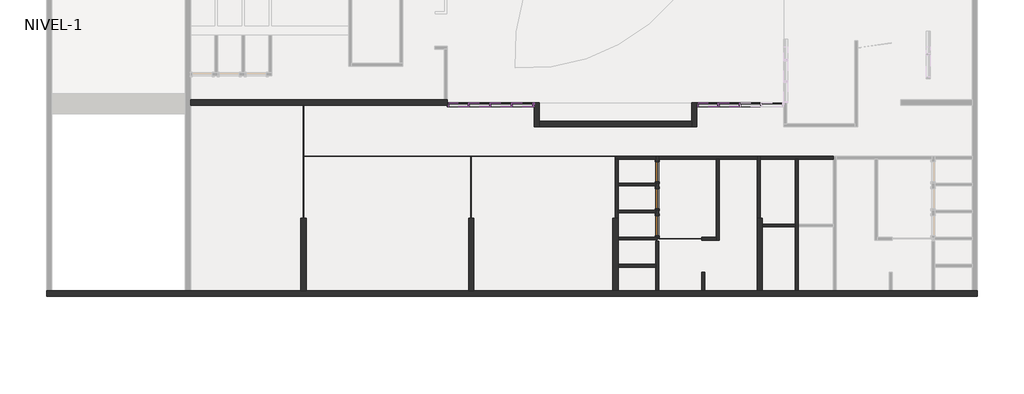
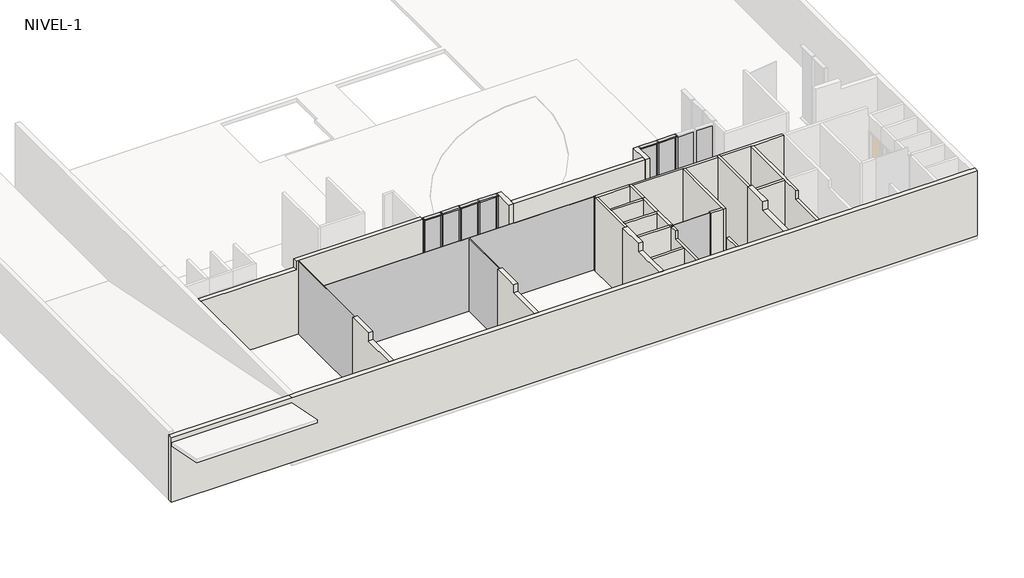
# One storey, part 1 of 4: 27 walls, 23 members, 13 plates, 3 doors.
"""IFC4 building model written with IfcOpenShell, lengths in millimetres."""

from ifc_helpers import new_model, si_unit, frame, origin, place, context, project, spatial, polyline, outline, extrude, faceted_brep, transform, mapped, element, save
from components import m_single_flush_750x_225_070f6889, rectangular_mullion_50_x_150mm_86a57cfb, rectangular_mullion_50_x_150mm_24ac0887, rectangular_mullion_50_x_150mm_ddcdbc05, rectangular_mullion_50_x_150mm_77bbb7d4, rectangular_mullion_50_x_150mm_d1ed8723, system_panel_cr_shower_ecd2c0de, system_panel_cr_shower_94f7a9c8, system_panel_cr_shower_a24a3b2b, system_panel_cr_shower_a34dfe18, system_panel_glazed_06997634, system_panel_glazed_e1af93cb, system_panel_glazed_255c200d

model = new_model("IFC4")

# Units and contexts
model_context = context("Model", 3, world=origin())
ifc_project = project(units=[si_unit("LENGTHUNIT", "METRE", prefix="MILLI")], contexts=[model_context])

# Site, building, storey
site = spatial("IfcSite", under=ifc_project)
building = spatial("IfcBuilding", under=site)
storey = spatial("IfcBuildingStorey", under=building, Name="NIVEL-1", Elevation=-4500.0)

# Doors
placement = place(None, origin())
m_single_flush_750x_225_shape = m_single_flush_750x_225_070f6889(model_context)
element("IfcDoor", 1, ObjectType="M_Single-Flush : 750x 225", at=placement, inside=storey, context=model_context, shape_type="MappedRepresentation", body=[
    mapped(m_single_flush_750x_225_shape, transform((-5623.5934748, -4871.0860759, -4500.0), x_axis=(0.0, -1.0, 0.0), y_axis=(1.0, 0.0, 0.0), z_axis=(0.0, 0.0, 1.0))),
])
element("IfcDoor", 2, ObjectType="M_Single-Flush : 750x 225", at=placement, inside=storey, context=model_context, shape_type="MappedRepresentation", body=[
    mapped(m_single_flush_750x_225_shape, transform((-5623.5934748, -3861.0860759, -4500.0), x_axis=(0.0, -1.0, 0.0), y_axis=(1.0, 0.0, 0.0), z_axis=(0.0, 0.0, 1.0))),
])
element("IfcDoor", 3, ObjectType="M_Single-Flush : 750x 225", at=placement, inside=storey, context=model_context, shape_type="MappedRepresentation", body=[
    mapped(m_single_flush_750x_225_shape, transform((-5623.5934748, -2851.0860759, -4500.0), x_axis=(0.0, -1.0, 0.0), y_axis=(1.0, 0.0, 0.0), z_axis=(0.0, 0.0, 1.0))),
])

# Members
rectangular_mullion_50_x_150mm_shape = rectangular_mullion_50_x_150mm_86a57cfb(model_context)
element("IfcMember", 4, ObjectType="Rectangular Mullion : 50 x 150mm", at=placement, inside=storey, context=model_context, shape_type="MappedRepresentation", body=[
    mapped(rectangular_mullion_50_x_150mm_shape, transform((-3328.5934745, -341.0860759, -4520.0), x_axis=(1.0, 0.0, 0.0), y_axis=(0.0, -1.0, 0.0), z_axis=(0.0, 0.0, -1.0))),
])
element("IfcMember", 5, ObjectType="Rectangular Mullion : 50 x 150mm", at=placement, inside=storey, context=model_context, shape_type="MappedRepresentation", body=[
    mapped(rectangular_mullion_50_x_150mm_shape, transform((-2523.5934745, -341.0860759, -4520.0), x_axis=(1.0, 0.0, 0.0), y_axis=(0.0, -1.0, 0.0), z_axis=(0.0, 0.0, -1.0))),
])
element("IfcMember", 6, ObjectType="Rectangular Mullion : 50 x 150mm", at=placement, inside=storey, context=model_context, shape_type="MappedRepresentation", body=[
    mapped(rectangular_mullion_50_x_150mm_shape, transform((-12678.5934745, -341.0860759, -4520.0), x_axis=(1.0, 0.0, 0.0), y_axis=(0.0, -1.0, 0.0), z_axis=(0.0, 0.0, -1.0))),
])
element("IfcMember", 7, ObjectType="Rectangular Mullion : 50 x 150mm", at=placement, inside=storey, context=model_context, shape_type="MappedRepresentation", body=[
    mapped(rectangular_mullion_50_x_150mm_shape, transform((-11873.5934745, -341.0860759, -4520.0), x_axis=(1.0, 0.0, 0.0), y_axis=(0.0, -1.0, 0.0), z_axis=(0.0, 0.0, -1.0))),
])
element("IfcMember", 8, ObjectType="Rectangular Mullion : 50 x 150mm", at=placement, inside=storey, context=model_context, shape_type="MappedRepresentation", body=[
    mapped(rectangular_mullion_50_x_150mm_shape, transform((-11068.5934745, -341.0860759, -4520.0), x_axis=(1.0, 0.0, 0.0), y_axis=(0.0, -1.0, 0.0), z_axis=(0.0, 0.0, -1.0))),
])
element("IfcMember", 9, ObjectType="Rectangular Mullion : 50 x 150mm", at=placement, inside=storey, context=model_context, shape_type="MappedRepresentation", body=[
    mapped(rectangular_mullion_50_x_150mm_shape, transform((-10263.5934745, -341.0860759, -4520.0), x_axis=(1.0, 0.0, 0.0), y_axis=(0.0, -1.0, 0.0), z_axis=(0.0, 0.0, -1.0))),
])
rectangular_mullion_50_x_150mm_2_shape = rectangular_mullion_50_x_150mm_24ac0887(model_context)
element("IfcMember", 10, ObjectType="Rectangular Mullion : 50 x 150mm", at=placement, inside=storey, context=model_context, shape_type="MappedRepresentation", body=[
    mapped(rectangular_mullion_50_x_150mm_2_shape, transform((-4133.5934748, -341.0860759, -1170.0), x_axis=(-1.0, 0.0, 0.0), y_axis=(0.0, -1.0, 0.0), z_axis=(0.0, 0.0, 1.0))),
])
element("IfcMember", 11, ObjectType="Rectangular Mullion : 50 x 150mm", at=placement, inside=storey, context=model_context, shape_type="MappedRepresentation", body=[
    mapped(rectangular_mullion_50_x_150mm_2_shape, transform((-13483.5934748, -341.0860759, -1170.0), x_axis=(-1.0, 0.0, 0.0), y_axis=(0.0, -1.0, 0.0), z_axis=(0.0, 0.0, 1.0))),
])
rectangular_mullion_50_x_150mm_3_shape = rectangular_mullion_50_x_150mm_ddcdbc05(model_context)
element("IfcMember", 12, ObjectType="Rectangular Mullion : 50 x 150mm", at=placement, inside=storey, context=model_context, shape_type="MappedRepresentation", body=[
    mapped(rectangular_mullion_50_x_150mm_3_shape, transform((-4083.5934748, -341.0860759, -4520.0), x_axis=(0.0, 0.0, -1.0), y_axis=(0.0, -1.0, 0.0), z_axis=(-1.0, 0.0, 0.0))),
])
element("IfcMember", 13, ObjectType="Rectangular Mullion : 50 x 150mm", at=placement, inside=storey, context=model_context, shape_type="MappedRepresentation", body=[
    mapped(rectangular_mullion_50_x_150mm_3_shape, transform((-13433.5934748, -341.0860759, -4520.0), x_axis=(0.0, 0.0, -1.0), y_axis=(0.0, -1.0, 0.0), z_axis=(-1.0, 0.0, 0.0))),
])
element("IfcMember", 14, ObjectType="Rectangular Mullion : 50 x 150mm", at=placement, inside=storey, context=model_context, shape_type="MappedRepresentation", body=[
    mapped(rectangular_mullion_50_x_150mm_3_shape, transform((-3353.5934745, -341.0860759, -1170.0), x_axis=(0.0, 0.0, 1.0), y_axis=(0.0, -1.0, 0.0), z_axis=(1.0, 0.0, 0.0))),
])
element("IfcMember", 15, ObjectType="Rectangular Mullion : 50 x 150mm", at=placement, inside=storey, context=model_context, shape_type="MappedRepresentation", body=[
    mapped(rectangular_mullion_50_x_150mm_3_shape, transform((-12703.5934745, -341.0860759, -1170.0), x_axis=(0.0, 0.0, 1.0), y_axis=(0.0, -1.0, 0.0), z_axis=(1.0, 0.0, 0.0))),
])
rectangular_mullion_50_x_150mm_4_shape = rectangular_mullion_50_x_150mm_77bbb7d4(model_context)
element("IfcMember", 16, ObjectType="Rectangular Mullion : 50 x 150mm", at=placement, inside=storey, context=model_context, shape_type="MappedRepresentation", body=[
    mapped(rectangular_mullion_50_x_150mm_4_shape, transform((-2548.5934745, -341.0860759, -1170.0), x_axis=(0.0, 0.0, 1.0), y_axis=(0.0, -1.0, 0.0), z_axis=(1.0, 0.0, 0.0))),
])
element("IfcMember", 17, ObjectType="Rectangular Mullion : 50 x 150mm", at=placement, inside=storey, context=model_context, shape_type="MappedRepresentation", body=[
    mapped(rectangular_mullion_50_x_150mm_4_shape, transform((-11898.5934745, -341.0860759, -1170.0), x_axis=(0.0, 0.0, 1.0), y_axis=(0.0, -1.0, 0.0), z_axis=(1.0, 0.0, 0.0))),
])
element("IfcMember", 18, ObjectType="Rectangular Mullion : 50 x 150mm", at=placement, inside=storey, context=model_context, shape_type="MappedRepresentation", body=[
    mapped(rectangular_mullion_50_x_150mm_4_shape, transform((-11093.5934745, -341.0860759, -1170.0), x_axis=(0.0, 0.0, 1.0), y_axis=(0.0, -1.0, 0.0), z_axis=(1.0, 0.0, 0.0))),
])
element("IfcMember", 19, ObjectType="Rectangular Mullion : 50 x 150mm", at=placement, inside=storey, context=model_context, shape_type="MappedRepresentation", body=[
    mapped(rectangular_mullion_50_x_150mm_4_shape, transform((-10288.5934745, -341.0860759, -1170.0), x_axis=(0.0, 0.0, 1.0), y_axis=(0.0, -1.0, 0.0), z_axis=(1.0, 0.0, 0.0))),
])
element("IfcMember", 20, ObjectType="Rectangular Mullion : 50 x 150mm", at=placement, inside=storey, context=model_context, shape_type="MappedRepresentation", body=[
    mapped(rectangular_mullion_50_x_150mm_4_shape, transform((-3303.5934745, -341.0860759, -4520.0), x_axis=(0.0, 0.0, -1.0), y_axis=(0.0, -1.0, 0.0), z_axis=(-1.0, 0.0, 0.0))),
])
element("IfcMember", 21, ObjectType="Rectangular Mullion : 50 x 150mm", at=placement, inside=storey, context=model_context, shape_type="MappedRepresentation", body=[
    mapped(rectangular_mullion_50_x_150mm_4_shape, transform((-2498.5934745, -341.0860759, -4520.0), x_axis=(0.0, 0.0, -1.0), y_axis=(0.0, -1.0, 0.0), z_axis=(-1.0, 0.0, 0.0))),
])
element("IfcMember", 22, ObjectType="Rectangular Mullion : 50 x 150mm", at=placement, inside=storey, context=model_context, shape_type="MappedRepresentation", body=[
    mapped(rectangular_mullion_50_x_150mm_4_shape, transform((-12653.5934745, -341.0860759, -4520.0), x_axis=(0.0, 0.0, -1.0), y_axis=(0.0, -1.0, 0.0), z_axis=(-1.0, 0.0, 0.0))),
])
element("IfcMember", 23, ObjectType="Rectangular Mullion : 50 x 150mm", at=placement, inside=storey, context=model_context, shape_type="MappedRepresentation", body=[
    mapped(rectangular_mullion_50_x_150mm_4_shape, transform((-11848.5934745, -341.0860759, -4520.0), x_axis=(0.0, 0.0, -1.0), y_axis=(0.0, -1.0, 0.0), z_axis=(-1.0, 0.0, 0.0))),
])
element("IfcMember", 24, ObjectType="Rectangular Mullion : 50 x 150mm", at=placement, inside=storey, context=model_context, shape_type="MappedRepresentation", body=[
    mapped(rectangular_mullion_50_x_150mm_4_shape, transform((-11043.5934745, -341.0860759, -4520.0), x_axis=(0.0, 0.0, -1.0), y_axis=(0.0, -1.0, 0.0), z_axis=(-1.0, 0.0, 0.0))),
])
rectangular_mullion_50_x_150mm_5_shape = rectangular_mullion_50_x_150mm_d1ed8723(model_context)
element("IfcMember", 25, ObjectType="Rectangular Mullion : 50 x 150mm", at=placement, inside=storey, context=model_context, shape_type="MappedRepresentation", body=[
    mapped(rectangular_mullion_50_x_150mm_5_shape, transform((-10233.5934748, -341.0860759, -1170.0), x_axis=(0.0, 0.0, 1.0), y_axis=(0.0, -1.0, 0.0), z_axis=(1.0, 0.0, 0.0))),
])
element("IfcMember", 26, ObjectType="Rectangular Mullion : 50 x 150mm", at=placement, inside=storey, context=model_context, shape_type="MappedRepresentation", body=[
    mapped(rectangular_mullion_50_x_150mm_5_shape, transform((-10238.5934745, -341.0860759, -4520.0), x_axis=(0.0, 0.0, -1.0), y_axis=(0.0, -1.0, 0.0), z_axis=(-1.0, 0.0, 0.0))),
])

# Plates
system_panel_cr_shower_shape = system_panel_cr_shower_ecd2c0de(model_context)
element("IfcPlate", 27, ObjectType="System Panel : CR-SHOWER", at=placement, inside=storey, context=model_context, shape_type="MappedRepresentation", body=[
    mapped(system_panel_cr_shower_shape, transform((-18858.5934748, -2478.3360759, -4520.0), x_axis=(0.0, 1.0, 0.0), y_axis=(-1.0, 0.0, 0.0), z_axis=(0.0, 0.0, 1.0))),
])
system_panel_cr_shower_2_shape = system_panel_cr_shower_94f7a9c8(model_context)
element("IfcPlate", 28, ObjectType="System Panel : CR-SHOWER", at=placement, inside=storey, context=model_context, shape_type="MappedRepresentation", body=[
    mapped(system_panel_cr_shower_2_shape, transform((-12998.5934748, -2266.0860759, -4520.0), x_axis=(-1.0, 0.0, 0.0), y_axis=(0.0, -1.0, 0.0), z_axis=(0.0, 0.0, 1.0))),
])
system_panel_cr_shower_3_shape = system_panel_cr_shower_a24a3b2b(model_context)
element("IfcPlate", 29, ObjectType="System Panel : CR-SHOWER", at=placement, inside=storey, context=model_context, shape_type="MappedRepresentation", body=[
    mapped(system_panel_cr_shower_3_shape, transform((-12583.5934748, -3434.5610759, -4520.0), x_axis=(0.0, 1.0, 0.0), y_axis=(-1.0, 0.0, 0.0), z_axis=(0.0, 0.0, 1.0))),
])
system_panel_cr_shower_4_shape = system_panel_cr_shower_a34dfe18(model_context)
element("IfcPlate", 30, ObjectType="System Panel : CR-SHOWER", at=placement, inside=storey, context=model_context, shape_type="MappedRepresentation", body=[
    mapped(system_panel_cr_shower_4_shape, transform((-4761.0934748, -5357.0860759, -4520.0), x_axis=(-1.0, 0.0, 0.0), y_axis=(0.0, -1.0, 0.0), z_axis=(0.0, 0.0, 1.0))),
])
system_panel_glazed_shape = system_panel_glazed_06997634(model_context)
element("IfcPlate", 31, ObjectType="System Panel : Glazed", at=placement, inside=storey, context=model_context, shape_type="MappedRepresentation", body=[
    mapped(system_panel_glazed_shape, transform((-3718.5934747, -341.0860759, -4470.0), x_axis=(1.0, 0.0, 0.0), y_axis=(0.0, 1.0, 0.0), z_axis=(0.0, 0.0, 1.0))),
])
element("IfcPlate", 32, ObjectType="System Panel : Glazed", at=placement, inside=storey, context=model_context, shape_type="MappedRepresentation", body=[
    mapped(system_panel_glazed_shape, transform((-13068.5934747, -341.0860759, -4470.0), x_axis=(1.0, 0.0, 0.0), y_axis=(0.0, 1.0, 0.0), z_axis=(0.0, 0.0, 1.0))),
])
system_panel_glazed_2_shape = system_panel_glazed_e1af93cb(model_context)
element("IfcPlate", 33, ObjectType="System Panel : Glazed", at=placement, inside=storey, context=model_context, shape_type="MappedRepresentation", body=[
    mapped(system_panel_glazed_2_shape, transform((-2926.0934745, -341.0860759, -4470.0), x_axis=(1.0, 0.0, 0.0), y_axis=(0.0, 1.0, 0.0), z_axis=(0.0, 0.0, 1.0))),
])
element("IfcPlate", 34, ObjectType="System Panel : Glazed", at=placement, inside=storey, context=model_context, shape_type="MappedRepresentation", body=[
    mapped(system_panel_glazed_2_shape, transform((-2121.0934745, -341.0860759, -4470.0), x_axis=(1.0, 0.0, 0.0), y_axis=(0.0, 1.0, 0.0), z_axis=(0.0, 0.0, 1.0))),
])
element("IfcPlate", 35, ObjectType="System Panel : Glazed", at=placement, inside=storey, context=model_context, shape_type="MappedRepresentation", body=[
    mapped(system_panel_glazed_2_shape, transform((-1316.0934745, -341.0860759, -4470.0), x_axis=(1.0, 0.0, 0.0), y_axis=(0.0, 1.0, 0.0), z_axis=(0.0, 0.0, 1.0))),
])
element("IfcPlate", 36, ObjectType="System Panel : Glazed", at=placement, inside=storey, context=model_context, shape_type="MappedRepresentation", body=[
    mapped(system_panel_glazed_2_shape, transform((-12276.0934745, -341.0860759, -4470.0), x_axis=(1.0, 0.0, 0.0), y_axis=(0.0, 1.0, 0.0), z_axis=(0.0, 0.0, 1.0))),
])
element("IfcPlate", 37, ObjectType="System Panel : Glazed", at=placement, inside=storey, context=model_context, shape_type="MappedRepresentation", body=[
    mapped(system_panel_glazed_2_shape, transform((-11471.0934745, -341.0860759, -4470.0), x_axis=(1.0, 0.0, 0.0), y_axis=(0.0, 1.0, 0.0), z_axis=(0.0, 0.0, 1.0))),
])
element("IfcPlate", 38, ObjectType="System Panel : Glazed", at=placement, inside=storey, context=model_context, shape_type="MappedRepresentation", body=[
    mapped(system_panel_glazed_2_shape, transform((-10666.0934745, -341.0860759, -4470.0), x_axis=(1.0, 0.0, 0.0), y_axis=(0.0, 1.0, 0.0), z_axis=(0.0, 0.0, 1.0))),
])
system_panel_glazed_3_shape = system_panel_glazed_255c200d(model_context)
element("IfcPlate", 39, ObjectType="System Panel : Glazed", at=placement, inside=storey, context=model_context, shape_type="MappedRepresentation", body=[
    mapped(system_panel_glazed_3_shape, transform((-10236.0934747, -341.0860759, -4470.0), x_axis=(1.0, 0.0, 0.0), y_axis=(0.0, 1.0, 0.0), z_axis=(0.0, 0.0, 1.0))),
])

# Walls
element("IfcWall", 40, ObjectType="SCV.TI.A.110.090.143.47.1", at=placement, inside=storey, context=model_context, shape_type="Brep", body=[
    faceted_brep([(-5568.5934748, -5351.0860759, -4520.0), (-5568.5934748, -4286.0860759, -4520.0), (-5568.5934748, -4286.0860759, -1170.0), (-5568.5934748, -5351.0860759, -1170.0), (-5568.5934748, -4496.0860759, -4500.0), (-5568.5934748, -5246.0860759, -4500.0), (-5568.5934748, -5246.0860759, -2300.0), (-5568.5934748, -4496.0860759, -2300.0), (-5678.5934748, -4286.0860759, -4520.0), (-5678.5934748, -4396.0860759, -4520.0), (-5678.5934748, -5351.0860759, -4520.0), (-5678.5934748, -5351.0860759, -1170.0), (-5678.5934748, -4396.0860759, -1170.0), (-5678.5934748, -4286.0860759, -1170.0), (-5678.5934748, -5246.0860759, -4500.0), (-5678.5934748, -4496.0860759, -4500.0), (-5678.5934748, -4496.0860759, -2300.0), (-5678.5934748, -5246.0860759, -2300.0)], [[[0, 1, 2, 3], [4, 5, 6, 7]], [[8, 9, 10, 11, 12, 13], [14, 15, 16, 17]], [[1, 0, 10, 9, 8]], [[3, 2, 13, 12, 11]], [[0, 3, 11, 10]], [[4, 15, 14, 5]], [[6, 17, 16, 7]], [[15, 4, 7, 16]], [[17, 6, 5, 14]], [[2, 1, 8, 13]]]),
])
element("IfcWall", 41, ObjectType="SCV.TI.A.110.090.143.47.1", at=placement, inside=storey, context=model_context, shape_type="SweptSolid", body=[
    extrude(outline(polyline([(-7083.5934748, -4286.0860759), (-5678.5934748, -4286.0860759), (-5678.5934748, -4396.0860759), (-7083.5934748, -4396.0860759), (-7083.5934748, -4286.0860759)])), frame((0.0, 0.0, -4520.0), z_axis=(0.0, 0.0, 1.0), x_axis=(1.0, 0.0, 0.0)), (0.0, 0.0, 1.0), 3350.0),
])
element("IfcWall", 42, ObjectType="SCV.TI.A.110.090.143.47.1", at=placement, inside=storey, context=model_context, shape_type="Brep", body=[
    faceted_brep([(-5568.5934748, -4286.0860759, -4520.0), (-5568.5934748, -3276.0860759, -4520.0), (-5568.5934748, -3276.0860759, -1170.0), (-5568.5934748, -4286.0860759, -1170.0), (-5568.5934748, -3486.0860759, -4500.0), (-5568.5934748, -4236.0860759, -4500.0), (-5568.5934748, -4236.0860759, -2300.0), (-5568.5934748, -3486.0860759, -2300.0), (-5678.5934748, -3276.0860759, -4520.0), (-5678.5934748, -3386.0860759, -4520.0), (-5678.5934748, -4286.0860759, -4520.0), (-5678.5934748, -4286.0860759, -1170.0), (-5678.5934748, -3386.0860759, -1170.0), (-5678.5934748, -3276.0860759, -1170.0), (-5678.5934748, -4236.0860759, -4500.0), (-5678.5934748, -3486.0860759, -4500.0), (-5678.5934748, -3486.0860759, -2300.0), (-5678.5934748, -4236.0860759, -2300.0)], [[[0, 1, 2, 3], [4, 5, 6, 7]], [[8, 9, 10, 11, 12, 13], [14, 15, 16, 17]], [[1, 0, 10, 9, 8]], [[3, 2, 13, 12, 11]], [[4, 15, 14, 5]], [[6, 17, 16, 7]], [[15, 4, 7, 16]], [[17, 6, 5, 14]], [[2, 1, 8, 13]], [[0, 3, 11, 10]]]),
])
element("IfcWall", 43, ObjectType="SCV.TI.A.110.090.143.47.1", at=placement, inside=storey, context=model_context, shape_type="SweptSolid", body=[
    extrude(outline(polyline([(-7083.5934748, -3276.0860759), (-5678.5934748, -3276.0860759), (-5678.5934748, -3386.0860759), (-7083.5934748, -3386.0860759), (-7083.5934748, -3276.0860759)])), frame((0.0, 0.0, -4520.0), z_axis=(0.0, 0.0, 1.0), x_axis=(1.0, 0.0, 0.0)), (0.0, 0.0, 1.0), 3350.0),
])
element("IfcWall", 44, ObjectType="SCV.TI.A.110.090.143.47.1", at=placement, inside=storey, context=model_context, shape_type="Brep", body=[
    faceted_brep([(-5568.5934748, -3276.0860759, -4520.0), (-5568.5934748, -2376.0860759, -4520.0), (-5568.5934748, -2266.0860759, -4520.0), (-5568.5934748, -2266.0860759, -1170.0), (-5568.5934748, -2376.0860759, -1170.0), (-5568.5934748, -3276.0860759, -1170.0), (-5568.5934748, -2476.0860759, -4500.0), (-5568.5934748, -3226.0860759, -4500.0), (-5568.5934748, -3226.0860759, -2300.0), (-5568.5934748, -2476.0860759, -2300.0), (-5678.5934748, -2266.0860759, -4520.0), (-5678.5934748, -2376.0860759, -4520.0), (-5678.5934748, -3276.0860759, -4520.0), (-5678.5934748, -3276.0860759, -1170.0), (-5678.5934748, -2376.0860759, -1170.0), (-5678.5934748, -2266.0860759, -1170.0), (-5678.5934748, -3226.0860759, -4500.0), (-5678.5934748, -2476.0860759, -4500.0), (-5678.5934748, -2476.0860759, -2300.0), (-5678.5934748, -3226.0860759, -2300.0)], [[[0, 1, 2, 3, 4, 5], [6, 7, 8, 9]], [[10, 11, 12, 13, 14, 15], [16, 17, 18, 19]], [[2, 1, 0, 12, 11, 10]], [[5, 4, 3, 15, 14, 13]], [[6, 17, 16, 7]], [[8, 19, 18, 9]], [[17, 6, 9, 18]], [[19, 8, 7, 16]], [[3, 2, 10, 15]], [[0, 5, 13, 12]]]),
])
element("IfcWall", 45, ObjectType="SCV.TI.A.110.090.143.47.1", at=placement, inside=storey, context=model_context, shape_type="Brep", body=[
    faceted_brep([(-5678.5934748, -2266.0860759, -4520.0), (-7193.5934748, -2266.0860759, -4520.0), (-7193.5934748, -2266.0860759, -1170.0), (-5678.5934748, -2266.0860759, -1170.0), (-5678.5934748, -2376.0860759, -4520.0), (-5678.5934748, -2376.0860759, -1170.0), (-7083.5934748, -2376.0860759, -1170.0), (-7193.5934748, -2376.0860759, -1170.0), (-7193.5934748, -2376.0860759, -4520.0), (-7083.5934748, -2376.0860759, -4520.0)], [[[0, 1, 2, 3]], [[4, 5, 6, 7, 8, 9]], [[1, 0, 4, 9, 8]], [[2, 1, 8, 7]], [[0, 3, 5, 4]], [[3, 2, 7, 6, 5]]]),
])
element("IfcWall", 46, ObjectType="SCV.TI.A.110.090.143.47.1", at=placement, inside=storey, context=model_context, shape_type="Brep", body=[
    faceted_brep([(-7083.5934748, -4590.5860759, -4520.0), (-7083.5934748, -4396.0860759, -4520.0), (-7083.5934748, -4286.0860759, -4520.0), (-7083.5934748, -3386.0860759, -4520.0), (-7083.5934748, -3276.0860759, -4520.0), (-7083.5934748, -2376.0860759, -4520.0), (-7083.5934748, -2376.0860759, -1170.0), (-7083.5934748, -3276.0860759, -1170.0), (-7083.5934748, -3386.0860759, -1170.0), (-7083.5934748, -4286.0860759, -1170.0), (-7083.5934748, -4396.0860759, -1170.0), (-7083.5934748, -4590.5860759, -1170.0), (-7193.5934748, -4590.5860759, -4520.0), (-7193.5934748, -4590.5860759, -1170.0), (-7193.5934748, -2376.0860759, -1170.0), (-7193.5934748, -2376.0860759, -4520.0)], [[[0, 1, 2, 3, 4, 5, 6, 7, 8, 9, 10, 11]], [[12, 13, 14, 15]], [[5, 4, 3, 2, 1, 0, 12, 15]], [[0, 11, 13, 12]], [[6, 5, 15, 14]], [[11, 10, 9, 8, 7, 6, 14, 13]]]),
])
element("IfcWall", 47, ObjectType="SCV.TI.A.110.120.141.44.1", at=placement, inside=storey, context=model_context, shape_type="SweptSolid", body=[
    extrude(outline(polyline([(-7083.5934748, -5296.0860759), (-5623.5934748, -5296.0860759), (-5623.5934748, -5406.0860759), (-7083.5934748, -5406.0860759), (-7083.5934748, -5296.0860759)])), frame((0.0, 0.0, -4520.0), z_axis=(0.0, 0.0, 1.0), x_axis=(1.0, 0.0, 0.0)), (0.0, 0.0, 1.0), 3350.0),
])
element("IfcWall", 48, ObjectType="SCV.TI.A.110.090.143.47.1", at=placement, inside=storey, context=model_context, shape_type="Brep", body=[
    faceted_brep([(-5568.5934748, -2376.0860759, -4520.0), (-3403.5934748, -2376.0860759, -4520.0), (-3293.5934748, -2376.0860759, -4520.0), (-1883.5934748, -2376.0860759, -4520.0), (-1883.5934748, -2376.0860759, -1170.0), (-3293.5934748, -2376.0860759, -1170.0), (-3403.5934748, -2376.0860759, -1170.0), (-5568.5934748, -2376.0860759, -1170.0), (-5568.5934748, -2266.0860759, -4520.0), (-5568.5934748, -2266.0860759, -1170.0), (-1883.5934748, -2266.0860759, -1170.0), (-1883.5934748, -2266.0860759, -4520.0)], [[[0, 1, 2, 3, 4, 5, 6, 7]], [[8, 9, 10, 11]], [[3, 2, 1, 0, 8, 11]], [[4, 3, 11, 10]], [[0, 7, 9, 8]], [[7, 6, 5, 4, 10, 9]]]),
])
element("IfcWall", 49, ObjectType="SCV.TI.A.110.090.143.47.1", at=placement, inside=storey, context=model_context, shape_type="Brep", body=[
    faceted_brep([(-3403.5934748, -2376.0860759, -4520.0), (-3403.5934748, -5302.0860759, -4520.0), (-3403.5934748, -5412.0860759, -4520.0), (-3403.5934748, -5412.0860759, -1170.0), (-3403.5934748, -5302.0860759, -1170.0), (-3403.5934748, -2376.0860759, -1170.0), (-3293.5934748, -2376.0860759, -4520.0), (-3293.5934748, -2376.0860759, -1170.0), (-3293.5934748, -5412.0860759, -1170.0), (-3293.5934748, -5412.0860759, -4520.0)], [[[0, 1, 2, 3, 4, 5]], [[6, 7, 8, 9]], [[2, 1, 0, 6, 9]], [[5, 4, 3, 8, 7]], [[3, 2, 9, 8]], [[0, 5, 7, 6]]]),
])
element("IfcWall", 50, ObjectType="SCV.TI.A.110.090.143.47.1", at=placement, inside=storey, context=model_context, shape_type="SweptSolid", body=[
    extrude(outline(polyline([(-3403.5934748, -5412.0860759), (-3953.5934748, -5412.0860759), (-3953.5934748, -5302.0860759), (-3403.5934748, -5302.0860759), (-3403.5934748, -5412.0860759)])), frame((0.0, 0.0, -4520.0), z_axis=(0.0, 0.0, 1.0), x_axis=(1.0, 0.0, 0.0)), (0.0, 0.0, 1.0), 3350.0),
])
element("IfcWall", 51, ObjectType="SCV.TI.A.110.090.143.47.1", at=placement, inside=storey, context=model_context, shape_type="SweptSolid", body=[
    extrude(outline(polyline([(-3953.5934748, -7316.0860759), (-3953.5934748, -6616.0860759), (-3843.5934748, -6616.0860759), (-3843.5934748, -7316.0860759), (-3953.5934748, -7316.0860759)])), frame((0.0, 0.0, -4520.0), z_axis=(0.0, 0.0, 1.0), x_axis=(1.0, 0.0, 0.0)), (0.0, 0.0, 1.0), 2970.0),
])
element("IfcWall", 52, ObjectType="SCV.TI.A.110.120.141.44.1", at=placement, inside=storey, context=model_context, shape_type="SweptSolid", body=[
    extrude(outline(polyline([(-7083.5934748, -6320.0860759), (-5678.5934748, -6320.0860759), (-5678.5934748, -6430.0860759), (-7083.5934748, -6430.0860759), (-7083.5934748, -6320.0860759)])), frame((0.0, 0.0, -4520.0), z_axis=(0.0, 0.0, 1.0), x_axis=(1.0, 0.0, 0.0)), (0.0, 0.0, 1.0), 2970.0),
])
element("IfcWall", 53, ObjectType="SCV.TI.A.110.120.141.44.1", at=placement, inside=storey, context=model_context, shape_type="Brep", body=[
    faceted_brep([(-5568.5934748, -7316.0860759, -4520.0), (-5568.5934748, -5451.0860759, -4520.0), (-5568.5934748, -5451.0860759, -1170.0), (-5568.5934748, -5741.0860763, -1170.0), (-5568.5934748, -5741.0860763, -1550.0), (-5568.5934748, -7316.0860759, -1550.0), (-5678.5934748, -7316.0860759, -4520.0), (-5678.5934748, -7316.0860759, -1550.0), (-5678.5934748, -6430.0860759, -1550.0), (-5678.5934748, -6320.0860759, -1550.0), (-5678.5934748, -5741.0860763, -1550.0), (-5678.5934748, -5741.0860763, -1170.0), (-5678.5934748, -5451.0860759, -1170.0), (-5678.5934748, -5451.0860759, -4520.0), (-5678.5934748, -6320.0860759, -4520.0), (-5678.5934748, -6430.0860759, -4520.0)], [[[0, 1, 2, 3, 4, 5]], [[6, 7, 8, 9, 10, 11, 12, 13, 14, 15]], [[1, 0, 6, 15, 14, 13]], [[2, 1, 13, 12]], [[0, 5, 7, 6]], [[3, 2, 12, 11]], [[3, 11, 10, 4]], [[5, 4, 10, 9, 8, 7]]]),
])
element("IfcWall", 54, ObjectType="SCV.TI.A.110.120.141.44.1", at=placement, inside=storey, context=model_context, shape_type="Brep", body=[
    faceted_brep([(-1773.5934748, -4590.5860759, -4520.0), (-1773.5934748, -2376.0860759, -4520.0), (-1773.5934748, -2266.0860759, -4520.0), (-1773.5934748, -2266.0860759, -1170.0), (-1773.5934748, -2376.0860759, -1170.0), (-1773.5934748, -4590.5860759, -1170.0), (-1883.5934748, -4590.5860759, -4520.0), (-1883.5934748, -4590.5860759, -1170.0), (-1883.5934748, -2376.0860759, -1170.0), (-1883.5934748, -2266.0860759, -1170.0), (-1883.5934748, -2266.0860759, -4520.0), (-1883.5934748, -2376.0860759, -4520.0)], [[[0, 1, 2, 3, 4, 5]], [[6, 7, 8, 9, 10, 11]], [[2, 1, 0, 6, 11, 10]], [[5, 4, 3, 9, 8, 7]], [[0, 5, 7, 6]], [[3, 2, 10, 9]]]),
])
element("IfcWall", 55, ObjectType="SCV.TI.A.110.120.141.44.1", at=placement, inside=storey, context=model_context, shape_type="Brep", body=[
    faceted_brep([(-458.5934748, -2376.0860759, -4520.0), (-458.5934748, -4811.0860759, -4520.0), (-458.5934748, -4921.0860759, -4520.0), (-458.5934748, -7316.0860759, -4520.0), (-458.5934748, -7316.0860759, -1550.0), (-458.5934748, -5741.0860763, -1550.0), (-458.5934748, -5741.0860763, -1170.0), (-458.5934748, -4921.0860759, -1170.0), (-458.5934748, -4811.0860759, -1170.0), (-458.5934748, -2376.0860759, -1170.0), (-348.5934748, -2376.0860759, -4520.0), (-348.5934748, -2376.0860759, -1170.0), (-348.5934748, -4811.0860759, -1170.0), (-348.5934748, -4921.0860759, -1170.0), (-348.5934748, -5741.0860763, -1170.0), (-348.5934748, -5741.0860763, -1550.0), (-348.5934748, -7316.0860759, -1550.0), (-348.5934748, -7316.0860759, -4520.0), (-348.5934748, -4921.0860759, -4520.0), (-348.5934748, -4811.0860759, -4520.0)], [[[0, 1, 2, 3, 4, 5, 6, 7, 8, 9]], [[10, 11, 12, 13, 14, 15, 16, 17, 18, 19]], [[3, 2, 1, 0, 10, 19, 18, 17]], [[4, 3, 17, 16]], [[0, 9, 11, 10]], [[9, 8, 7, 6, 14, 13, 12, 11]], [[14, 6, 5, 15]], [[5, 4, 16, 15]]]),
])
element("IfcWall", 56, ObjectType="SCV.TI.A.110.120.141.44.1", at=placement, inside=storey, context=model_context, shape_type="SweptSolid", body=[
    extrude(outline(polyline([(-1683.5934748, -4811.0860759), (-458.5934748, -4811.0860759), (-458.5934748, -4921.0860759), (-1683.5934748, -4921.0860759), (-1683.5934748, -4811.0860759)])), frame((0.0, 0.0, -4520.0), z_axis=(0.0, 0.0, 1.0), x_axis=(1.0, 0.0, 0.0)), (0.0, 0.0, 1.0), 3350.0),
])
element("IfcWall", 57, ObjectType="SCV.TI.A.110.120.141.44.1", at=placement, inside=storey, context=model_context, shape_type="Brep", body=[
    faceted_brep([(-1773.5934748, -2376.0860759, -4520.0), (-458.5934748, -2376.0860759, -4520.0), (-348.5934748, -2376.0860759, -4520.0), (966.4065252, -2376.0860759, -4520.0), (966.4065252, -2376.0860759, -1170.0), (-348.5934748, -2376.0860759, -1170.0), (-458.5934748, -2376.0860759, -1170.0), (-1773.5934748, -2376.0860759, -1170.0), (-1773.5934748, -2266.0860759, -4520.0), (-1773.5934748, -2266.0860759, -1170.0), (966.4065252, -2266.0860759, -1170.0), (966.4065252, -2266.0860759, -4520.0)], [[[0, 1, 2, 3, 4, 5, 6, 7]], [[8, 9, 10, 11]], [[3, 2, 1, 0, 8, 11]], [[4, 3, 11, 10]], [[0, 7, 9, 8]], [[7, 6, 5, 4, 10, 9]]]),
])
element("IfcWall", 58, ObjectType="HA-200mm", at=placement, inside=storey, context=model_context, shape_type="Brep", body=[
    faceted_brep([(-10233.5934748, -266.0860759, -4520.0), (-10233.5934748, -1166.0860759, -4520.0), (-10233.5934748, -1166.0860759, -1170.0), (-10233.5934748, -266.0860759, -1170.0), (-10033.5934748, -266.0860759, -4520.0), (-10033.5934748, -266.0860759, -1170.0), (-10033.5934748, -966.0860759, -1170.0), (-10033.5934748, -1166.0860759, -1170.0), (-10033.5934748, -1166.0860759, -4520.0), (-10033.5934748, -966.0860759, -4520.0)], [[[0, 1, 2, 3]], [[4, 5, 6, 7, 8, 9]], [[1, 0, 4, 9, 8]], [[0, 3, 5, 4]], [[2, 1, 8, 7]], [[3, 2, 7, 6, 5]]]),
])
element("IfcWall", 59, ObjectType="HA-200mm", at=placement, inside=storey, context=model_context, shape_type="Brep", body=[
    faceted_brep([(-4133.5934748, -1166.0860759, -4520.0), (-4133.5934748, -266.0860759, -4520.0), (-4133.5934748, -266.0860759, -1170.0), (-4133.5934748, -1166.0860759, -1170.0), (-4333.5934748, -1166.0860759, -4520.0), (-4333.5934748, -1166.0860759, -1170.0), (-4333.5934748, -966.0860759, -1170.0), (-4333.5934748, -266.0860759, -1170.0), (-4333.5934748, -266.0860759, -4520.0), (-4333.5934748, -966.0860759, -4520.0)], [[[0, 1, 2, 3]], [[4, 5, 6, 7, 8, 9]], [[1, 0, 4, 9, 8]], [[2, 1, 8, 7]], [[0, 3, 5, 4]], [[3, 2, 7, 6, 5]]]),
])
element("IfcWall", 60, ObjectType="HA-200mm", at=placement, inside=storey, context=model_context, shape_type="SweptSolid", body=[
    extrude(outline(polyline([(-4333.5934748, -1166.0860759), (-10033.5934748, -1166.0860759), (-10033.5934748, -966.0860759), (-4333.5934748, -966.0860759), (-4333.5934748, -1166.0860759)])), frame((0.0, 0.0, -4520.0), z_axis=(0.0, 0.0, 1.0), x_axis=(1.0, 0.0, 0.0)), (0.0, 0.0, 1.0), 3350.0),
])
element("IfcWall", 61, ObjectType="HA-200mm", at=placement, inside=storey, context=model_context, shape_type="Brep", body=[
    faceted_brep([(-28484.3934748, -7516.0860759, -4520.0), (6366.4065252, -7516.0860759, -4520.0), (6366.4065252, -7516.0860759, -1550.0), (-23284.3934748, -7516.0860759, -1550.0), (-28484.3934748, -7516.0860759, -1550.0), (-28484.3934748, -7316.0860759, -4520.0), (-28484.3934748, -7316.0860759, -1550.0), (-23284.3934748, -7316.0860759, -1550.0), (-23084.3934748, -7316.0860759, -1550.0), (-18958.5934748, -7316.0860759, -1550.0), (-18758.5934748, -7316.0860759, -1550.0), (-12683.5934748, -7316.0860759, -1550.0), (-12483.5934748, -7316.0860759, -1550.0), (-7283.5934748, -7316.0860759, -1550.0), (-7083.5934748, -7316.0860759, -1550.0), (-5678.5934748, -7316.0860759, -1550.0), (-5568.5934748, -7316.0860759, -1550.0), (-3953.5934748, -7316.0860759, -1550.0), (-3843.5934748, -7316.0860759, -1550.0), (-1883.5934748, -7316.0860759, -1550.0), (-1683.5934748, -7316.0860759, -1550.0), (-458.5934748, -7316.0860759, -1550.0), (-348.5934748, -7316.0860759, -1550.0), (966.4065252, -7316.0860759, -1550.0), (1076.4065252, -7316.0860759, -1550.0), (3066.4065252, -7316.0860759, -1550.0), (3176.4065252, -7316.0860759, -1550.0), (4651.4065252, -7316.0860759, -1550.0), (4761.4065252, -7316.0860759, -1550.0), (6166.4065252, -7316.0860759, -1550.0), (6366.4065252, -7316.0860759, -1550.0), (6366.4065252, -7316.0860759, -4520.0), (6166.4065252, -7316.0860759, -4520.0), (4761.4065252, -7316.0860759, -4520.0), (4651.4065252, -7316.0860759, -4520.0), (3176.4065252, -7316.0860759, -4520.0), (3066.4065252, -7316.0860759, -4520.0), (1076.4065252, -7316.0860759, -4520.0), (966.4065252, -7316.0860759, -4520.0), (-348.5934748, -7316.0860759, -4520.0), (-458.5934748, -7316.0860759, -4520.0), (-1683.5934748, -7316.0860759, -4520.0), (-1883.5934748, -7316.0860759, -4520.0), (-3843.5934748, -7316.0860759, -4520.0), (-3953.5934748, -7316.0860759, -4520.0), (-5568.5934748, -7316.0860759, -4520.0), (-5678.5934748, -7316.0860759, -4520.0), (-7083.5934748, -7316.0860759, -4520.0), (-7283.5934748, -7316.0860759, -4520.0), (-12483.5934748, -7316.0860759, -4520.0), (-12683.5934748, -7316.0860759, -4520.0), (-18758.5934748, -7316.0860759, -4520.0), (-18958.5934748, -7316.0860759, -4520.0), (-23084.3934748, -7316.0860759, -4520.0), (-23284.3934748, -7316.0860759, -4520.0), (-28284.3934748, -7316.0860759, -4520.0)], [[[0, 1, 2, 3, 4]], [[5, 6, 7, 8, 9, 10, 11, 12, 13, 14, 15, 16, 17, 18, 19, 20, 21, 22, 23, 24, 25, 26, 27, 28, 29, 30, 31, 32, 33, 34, 35, 36, 37, 38, 39, 40, 41, 42, 43, 44, 45, 46, 47, 48, 49, 50, 51, 52, 53, 54, 55]], [[1, 0, 5, 55, 54, 53, 52, 51, 50, 49, 48, 47, 46, 45, 44, 43, 42, 41, 40, 39, 38, 37, 36, 35, 34, 33, 32, 31]], [[2, 1, 31, 30]], [[4, 3, 7, 6]], [[3, 2, 30, 29, 28, 27, 26, 25, 24, 23, 22, 21, 20, 19, 18, 17, 16, 15, 14, 13, 12, 11, 10, 9, 8, 7]], [[0, 4, 6, 5]]]),
])
element("IfcWall", 62, ObjectType="HA-200mm", at=placement, inside=storey, context=model_context, shape_type="Brep", body=[
    faceted_brep([(-23084.3934748, -366.0860759, -4520.0), (-13483.5934748, -366.0860759, -4520.0), (-13483.5934748, -366.0860759, -1170.0), (-18958.5934748, -366.0860759, -1170.0), (-18958.5934748, -366.0860759, -1550.0), (-23084.3934748, -366.0860759, -1550.0), (-23084.3934748, -166.0860759, -4520.0), (-23084.3934748, -166.0860759, -1550.0), (-18958.5934748, -166.0860759, -1550.0), (-18958.5934748, -166.0860759, -1170.0), (-13593.5934748, -166.0860759, -1170.0), (-13483.5934748, -166.0860759, -1170.0), (-13483.5934748, -166.0860759, -4520.0), (-13593.5934748, -166.0860759, -4520.0)], [[[0, 1, 2, 3, 4, 5]], [[6, 7, 8, 9, 10, 11, 12, 13]], [[1, 0, 6, 13, 12]], [[2, 1, 12, 11]], [[0, 5, 7, 6]], [[3, 2, 11, 10, 9]], [[3, 9, 8, 4]], [[5, 4, 8, 7]]]),
])
element("IfcWall", 63, ObjectType="HA-200mm", at=placement, inside=storey, context=model_context, shape_type="SweptSolid", body=[
    extrude(outline(polyline([(-4590.5860759, -4520.0), (-7316.0860759, -4520.0), (-7316.0860759, -1550.0), (-5741.0860763, -1550.0), (-5741.0860763, -1170.0), (-4590.5860759, -1170.0), (-4590.5860759, -4520.0)])), frame((-18958.5934748, 0.0, 0.0), z_axis=(1.0, 0.0, 0.0), x_axis=(0.0, 1.0, 0.0)), (0.0, 0.0, 1.0), 200.0),
])
element("IfcWall", 64, ObjectType="HA-200mm", at=placement, inside=storey, context=model_context, shape_type="SweptSolid", body=[
    extrude(outline(polyline([(-4590.5860759, -4520.0), (-7316.0860759, -4520.0), (-7316.0860759, -1550.0), (-5741.0860763, -1550.0), (-5741.0860763, -1170.0), (-4590.5860759, -1170.0), (-4590.5860759, -4520.0)])), frame((-12683.5934748, 0.0, 0.0), z_axis=(1.0, 0.0, 0.0), x_axis=(0.0, 1.0, 0.0)), (0.0, 0.0, 1.0), 200.0),
])
element("IfcWall", 65, ObjectType="HA-200mm", at=placement, inside=storey, context=model_context, shape_type="Brep", body=[
    faceted_brep([(-7283.5934748, -4590.5860759, -4520.0), (-7283.5934748, -7316.0860759, -4520.0), (-7283.5934748, -7316.0860759, -1550.0), (-7283.5934748, -5741.0860763, -1550.0), (-7283.5934748, -5741.0860763, -1170.0), (-7283.5934748, -4590.5860759, -1170.0), (-7083.5934748, -4590.5860759, -4520.0), (-7083.5934748, -4590.5860759, -1170.0), (-7083.5934748, -5296.0860759, -1170.0), (-7083.5934748, -5406.0860759, -1170.0), (-7083.5934748, -5741.0860763, -1170.0), (-7083.5934748, -5741.0860763, -1550.0), (-7083.5934748, -6320.0860759, -1550.0), (-7083.5934748, -6430.0860759, -1550.0), (-7083.5934748, -7316.0860759, -1550.0), (-7083.5934748, -7316.0860759, -4520.0), (-7083.5934748, -6430.0860759, -4520.0), (-7083.5934748, -6320.0860759, -4520.0), (-7083.5934748, -5406.0860759, -4520.0), (-7083.5934748, -5296.0860759, -4520.0), (-7193.5934748, -4590.5860759, -4520.0), (-7193.5934748, -4590.5860759, -1170.0)], [[[0, 1, 2, 3, 4, 5]], [[6, 7, 8, 9, 10, 11, 12, 13, 14, 15, 16, 17, 18, 19]], [[1, 0, 20, 6, 19, 18, 17, 16, 15]], [[0, 5, 21, 7, 6, 20]], [[2, 1, 15, 14]], [[10, 4, 3, 11]], [[3, 2, 14, 13, 12, 11]], [[5, 4, 10, 9, 8, 7, 21]]]),
])
element("IfcWall", 66, ObjectType="HA-200mm", at=placement, inside=storey, context=model_context, shape_type="Brep", body=[
    faceted_brep([(-1883.5934748, -4590.5860759, -4520.0), (-1883.5934748, -7316.0860759, -4520.0), (-1883.5934748, -7316.0860759, -1550.0), (-1883.5934748, -5741.0860763, -1550.0), (-1883.5934748, -5741.0860763, -1170.0), (-1883.5934748, -4590.5860759, -1170.0), (-1683.5934748, -4590.5860759, -4520.0), (-1683.5934748, -4590.5860759, -1170.0), (-1683.5934748, -4811.0860759, -1170.0), (-1683.5934748, -4921.0860759, -1170.0), (-1683.5934748, -5741.0860763, -1170.0), (-1683.5934748, -5741.0860763, -1550.0), (-1683.5934748, -7316.0860759, -1550.0), (-1683.5934748, -7316.0860759, -4520.0), (-1683.5934748, -4921.0860759, -4520.0), (-1683.5934748, -4811.0860759, -4520.0), (-1773.5934748, -4590.5860759, -4520.0), (-1773.5934748, -4590.5860759, -1170.0)], [[[0, 1, 2, 3, 4, 5]], [[6, 7, 8, 9, 10, 11, 12, 13, 14, 15]], [[1, 0, 16, 6, 15, 14, 13]], [[0, 5, 17, 7, 6, 16]], [[2, 1, 13, 12]], [[5, 4, 10, 9, 8, 7, 17]], [[10, 4, 3, 11]], [[3, 2, 12, 11]]]),
])

save(model, "model.ifc")
